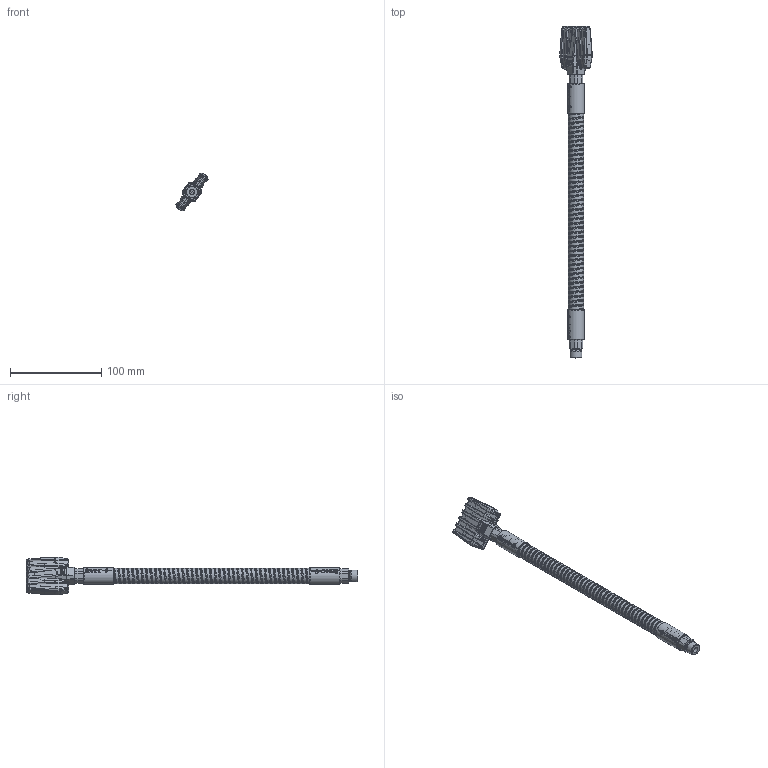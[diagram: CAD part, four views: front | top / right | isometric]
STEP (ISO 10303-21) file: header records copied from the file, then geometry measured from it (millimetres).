
FILE_DESCRIPTION (( 'STEP AP203' ), '1' );
FILE_NAME ('9002W-S+-300.STEP', '2019-09-10T05:36:33', ( '' ), ( '' ), 'SwSTEP 2.0', 'SolidWorks 2016', '' );
FILE_SCHEMA (( 'CONFIG_CONTROL_DESIGN' ));
Products named in the file (1): 9002W-S+-300
Bounding box: 35.19 x 363 x 41.31 mm (x, y, z)
Surface area: 36652.7 mm2 (no closed solid volume)
Topology: 0 solids, 22 shells, 716 faces, 3987 edges, 3238 vertices
Faces by surface type: cylinder 316, plane 231, bspline 135, torus 18, cone 14, sphere 2
Entity records: 70187 total; most frequent: CARTESIAN_POINT 44904, ORIENTED_EDGE 6374, EDGE_CURVE 3987, VERTEX_POINT 3238, DIRECTION 3042, B_SPLINE_CURVE_WITH_KNOTS 2018, VECTOR 1214, LINE 1214
